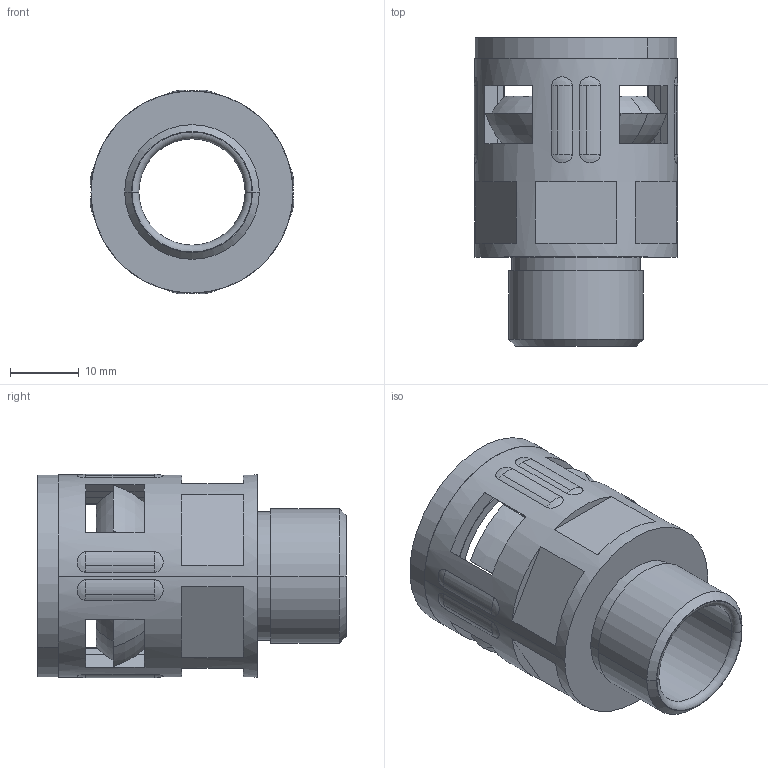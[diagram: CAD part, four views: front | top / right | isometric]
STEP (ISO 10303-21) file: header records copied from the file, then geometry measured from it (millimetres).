
FILE_DESCRIPTION (( 'STEP AP203' ), '1' );
FILE_NAME ('WQG-P13.5-AD21.2.STEP', '2020-03-12T06:24:44', ( '' ), ( '' ), 'SwSTEP 2.0', 'SolidWorks 2016', '' );
FILE_SCHEMA (( 'CONFIG_CONTROL_DESIGN' ));
Length unit declared in the file: millimetre
Products named in the file (4): NSK-AD21.2; WQG-P13.5-AD21.2; WQG-P13.5-AD21.2-01; GFD-AD21.2
Assembly tree (3 placements, depth 2):
  WQG-P13.5-AD21.2
    WQG-P13.5-AD21.2-01
    GFD-AD21.2
    NSK-AD21.2
Bounding box: 29.69 x 45 x 29.69 mm (x, y, z)
Volume: 10490.6 mm3; surface area: 15028.2 mm2
Topology: 6 solids, 7 shells, 286 faces, 708 edges, 432 vertices
Faces by surface type: plane 103, cone 79, cylinder 50, torus 38, sphere 16
Entity records: 9132 total; most frequent: CARTESIAN_POINT 1920, DIRECTION 1542, ORIENTED_EDGE 1352, EDGE_CURVE 676, AXIS2_PLACEMENT_3D 622, VERTEX_POINT 416, CIRCLE 330, EDGE_LOOP 322
